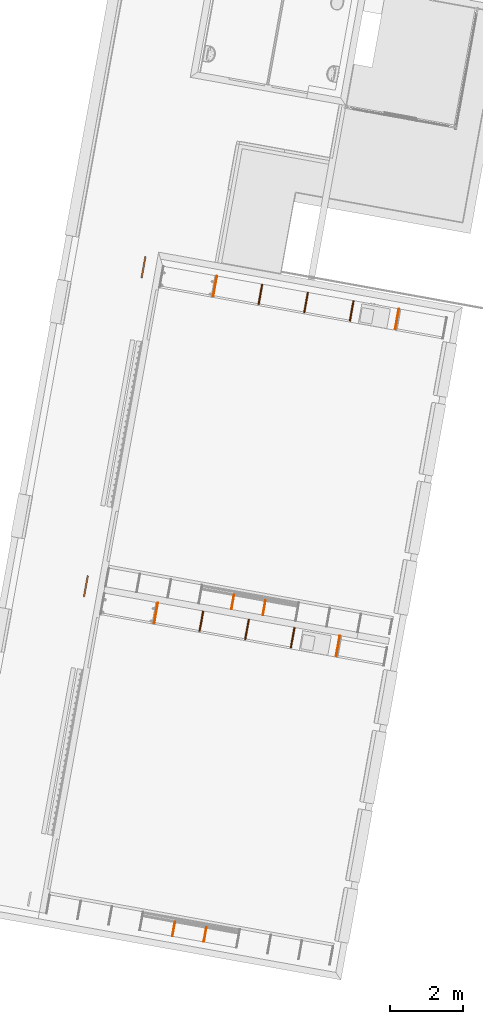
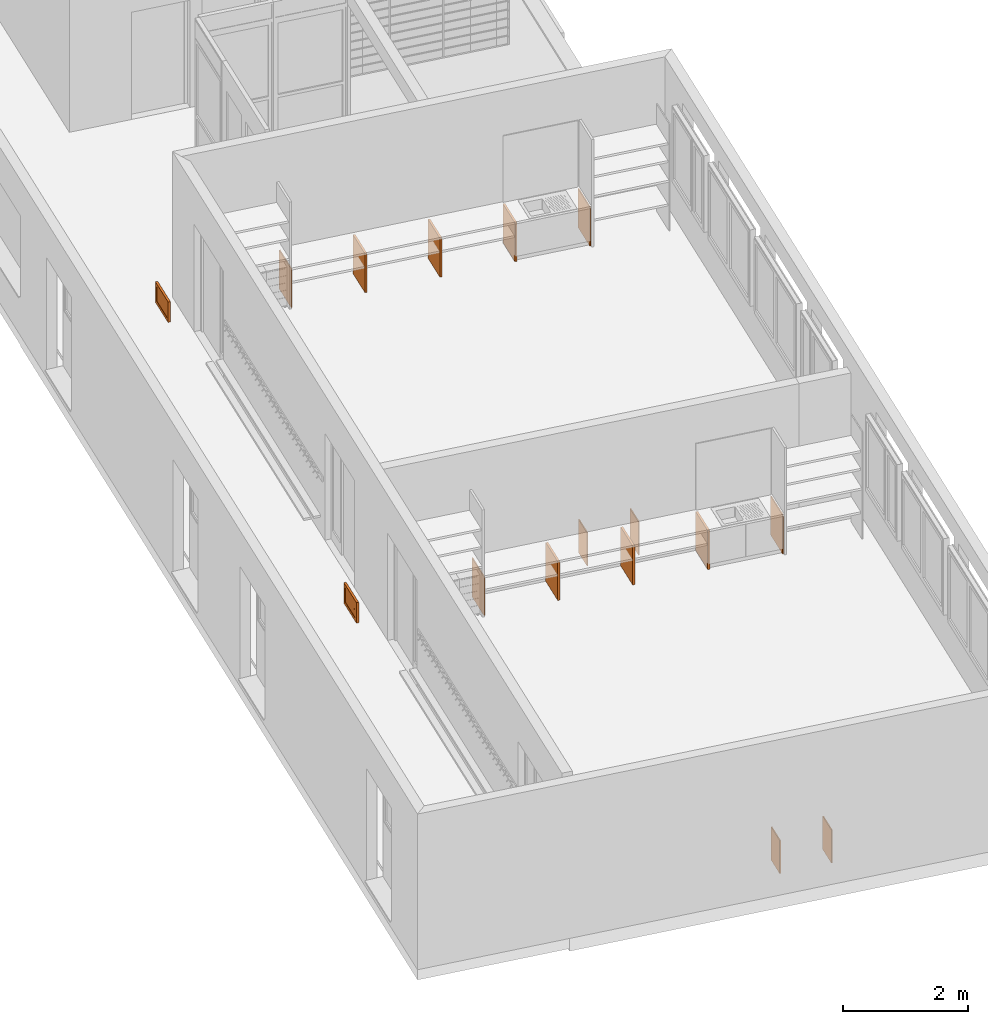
# One storey, part 27 of 52: 16 proxies.
"""IFC2X3 building model written with IfcOpenShell, lengths in metres."""

from ifc_helpers import new_model, entity, si_unit, converted_unit, derived_unit, money_unit, direction, frame, origin_with_axes, place, context, subcontext, project, spatial, polyline, outline, extrude, open_shell, faceted_brep, surface_model, source, transform, mapped, material, type_object, element, save


model = new_model("IFC2X3")

# Units and contexts
model_context = context("Model", 3, precision=1e-05, world=origin_with_axes(), true_north=direction((0.0, 1.0)))
body_context = subcontext(model_context, "Body", "Model", "MODEL_VIEW")
ifc_project = project(units=[si_unit("LENGTHUNIT", "METRE"), si_unit("AREAUNIT", "SQUARE_METRE"), si_unit("VOLUMEUNIT", "CUBIC_METRE"), converted_unit("PLANEANGLEUNIT", "DEGREE", entity("IfcPlaneAngleMeasure", 0.0174532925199), si_unit("PLANEANGLEUNIT", "RADIAN"), dimensions=[0, 0, 0, 0, 0, 0, 0]), money_unit("CHF"), converted_unit("TIMEUNIT", "Year", entity("IfcTimeMeasure", 31556926.0), si_unit("TIMEUNIT", "SECOND"), dimensions=[0, 0, 1, 0, 0, 0, 0]), si_unit("MASSUNIT", "GRAM", prefix="KILO"), si_unit("THERMODYNAMICTEMPERATUREUNIT", "DEGREE_CELSIUS"), si_unit("LUMINOUSINTENSITYUNIT", "LUMEN"), si_unit("ENERGYUNIT", "JOULE", prefix="MEGA"), derived_unit("THERMALCONDUCTANCEUNIT", [(si_unit("POWERUNIT", "WATT"), 1), (si_unit("LENGTHUNIT", "METRE"), -1), (si_unit("THERMODYNAMICTEMPERATUREUNIT", "KELVIN"), -1)]), derived_unit("SPECIFICHEATCAPACITYUNIT", [(si_unit("ENERGYUNIT", "JOULE"), 1), (si_unit("MASSUNIT", "GRAM", prefix="KILO"), -1), (si_unit("THERMODYNAMICTEMPERATUREUNIT", "KELVIN"), -1)]), derived_unit("MASSDENSITYUNIT", [(si_unit("MASSUNIT", "GRAM", prefix="KILO"), 1), (si_unit("VOLUMEUNIT", "CUBIC_METRE"), -1)])], contexts=[model_context])

# Site, building, storey
site_placement = place(None, frame((0.0, 0.0, 0.0), z_axis=(0.0, 0.0, 1.0), x_axis=(-0.177771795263, -0.984071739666, 0.0)))
site = spatial("IfcSite", under=ifc_project, at=site_placement, Name="Site", CompositionType="ELEMENT")
building_placement = place(site_placement, origin_with_axes())
building = spatial("IfcBuilding", under=site, at=building_placement, Name="Bâtiment", CompositionType="ELEMENT")
storey_placement = place(building_placement, frame((0.0, 0.0, 3.2), z_axis=(0.0, 0.0, 1.0), x_axis=(1.0, 0.0, 0.0)))
storey = spatial("IfcBuildingStorey", under=building, at=storey_placement, Name="R+1", CompositionType="ELEMENT", Elevation=3.2)

# Proxies
ifc_material_1 = material(Name="_panneau mélaminé")
building_element_proxy_type_1 = type_object("IfcBuildingElementProxyType", Name="_panneau mélaminé 38", PredefinedType="NOTDEFINED")
for number, where, z_axis, x_axis, name in (
    (1, (156.26984114, -153.660193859, 0.0), (0.0, 0.0, 1.0), (-1.0, 0.0, 0.0), "raidiseur-fd-classe double"),
    (2, (156.26984114, -152.382193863, 0.0), (0.0, 0.0, 1.0), (-1.0, 0.0, 0.0), "raidiseur-fd-classe double"),
):
    element("IfcBuildingElementProxy", number, at=place(storey_placement, frame(where, z_axis=z_axis, x_axis=x_axis)), inside=storey, type_object=building_element_proxy_type_1, material=ifc_material_1, Name=name, context=body_context, shape_type="SweptSolid", body=[
        extrude(outline(polyline([(0.0, -0.019), (0.570000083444, -0.019), (0.570000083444, 0.019), (0.0, 0.019), (0.0, -0.019)])), origin_with_axes(), (0.0, 0.0, 1.0), 0.76),
    ])
proxy_1_placement = place(storey_placement, frame((156.269841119, -151.104151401, 0.0), z_axis=(0.0, 0.0, 1.0), x_axis=(-1.0, 0.0, 0.0)))
element("IfcBuildingElementProxy", 3, at=proxy_1_placement, inside=storey, type_object=building_element_proxy_type_1, material=ifc_material_1, Name="raidiseur-fd-classe double", context=body_context, shape_type="SweptSolid", body=[
    extrude(outline(polyline([(0.0, -0.019), (0.570000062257, -0.019), (0.570000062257, 0.019), (0.0, 0.019), (0.0, -0.019)])), origin_with_axes(), (0.0, 0.0, 1.0), 0.76),
])
proxy_2_placement = place(storey_placement, frame((147.119841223, -153.660193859, 0.0), z_axis=(0.0, 0.0, 1.0), x_axis=(-1.0, 0.0, 0.0)))
element("IfcBuildingElementProxy", 4, at=proxy_2_placement, inside=storey, type_object=building_element_proxy_type_1, material=ifc_material_1, Name="raidiseur-fd-classe double", context=body_context, shape_type="SweptSolid", body=[
    extrude(outline(polyline([(0.0, -0.019), (0.57, -0.019), (0.57, 0.019), (0.0, 0.019), (0.0, -0.019)])), origin_with_axes(), (0.0, 0.0, 1.0), 0.76),
])
proxy_3_placement = place(storey_placement, frame((147.119841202, -151.104151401, 0.0), z_axis=(0.0, 0.0, 1.0), x_axis=(-1.0, 0.0, 0.0)))
element("IfcBuildingElementProxy", 5, at=proxy_3_placement, inside=storey, type_object=building_element_proxy_type_1, material=ifc_material_1, Name="raidiseur-fd-classe double", context=body_context, shape_type="SweptSolid", body=[
    extrude(outline(polyline([(0.0, -0.019), (0.569999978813, -0.019), (0.569999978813, 0.019), (0.0, 0.019), (0.0, -0.019)])), origin_with_axes(), (0.0, 0.0, 1.0), 0.76),
])
proxy_4_placement = place(storey_placement, frame((147.119841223, -152.382193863, 0.0), z_axis=(0.0, 0.0, 1.0), x_axis=(-1.0, 0.0, 0.0)))
element("IfcBuildingElementProxy", 6, at=proxy_4_placement, inside=storey, type_object=building_element_proxy_type_1, material=ifc_material_1, Name="raidiseur-fd-classe double", context=body_context, shape_type="SweptSolid", body=[
    extrude(outline(polyline([(0.0, -0.019), (0.57, -0.019), (0.57, 0.019), (0.0, 0.019), (0.0, -0.019)])), origin_with_axes(), (0.0, 0.0, 1.0), 0.76),
])
building_element_proxy_type_2 = type_object("IfcBuildingElementProxyType", Name="_panneau mélaminé 19", PredefinedType="NOTDEFINED")
proxy_5_placement = place(storey_placement, frame((156.26984114, -149.845151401, 0.0), z_axis=(0.0, 0.0, 1.0), x_axis=(-1.0, 0.0, 0.0)))
element("IfcBuildingElementProxy", 7, at=proxy_5_placement, inside=storey, type_object=building_element_proxy_type_2, material=ifc_material_1, Name="raidiseur-fd-classe simple", context=body_context, shape_type="SweptSolid", body=[
    extrude(outline(polyline([(0.0, -0.019), (0.570000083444, -0.019), (0.570000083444, 0.0), (0.0, 0.0), (0.0, -0.019)])), origin_with_axes(), (0.0, 0.0, 1.0), 0.76),
])
proxy_6_placement = place(storey_placement, frame((156.26984114, -154.919236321, 0.0), z_axis=(0.0, 0.0, 1.0), x_axis=(-1.0, 0.0, 0.0)))
element("IfcBuildingElementProxy", 8, at=proxy_6_placement, inside=storey, type_object=building_element_proxy_type_2, material=ifc_material_1, Name="raidiseur-fd-classe simple", context=body_context, shape_type="SweptSolid", body=[
    extrude(outline(polyline([(0.0, 0.0), (0.570000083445, 0.0), (0.570000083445, 0.019), (0.0, 0.019), (0.0, 0.0)])), origin_with_axes(), (0.0, 0.0, 1.0), 0.76),
])
proxy_7_placement = place(storey_placement, frame((147.119841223, -149.845151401, 0.0), z_axis=(0.0, 0.0, 1.0), x_axis=(-1.0, 0.0, 0.0)))
element("IfcBuildingElementProxy", 9, at=proxy_7_placement, inside=storey, type_object=building_element_proxy_type_2, material=ifc_material_1, Name="raidiseur-fd-classe simple", context=body_context, shape_type="SweptSolid", body=[
    extrude(outline(polyline([(0.0, -0.019), (0.57, -0.019), (0.57, 0.0), (0.0, 0.0), (0.0, -0.019)])), origin_with_axes(), (0.0, 0.0, 1.0), 0.76),
])
proxy_8_placement = place(storey_placement, frame((147.119841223, -154.919236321, 0.0), z_axis=(0.0, 0.0, 1.0), x_axis=(-1.0, 0.0, 0.0)))
element("IfcBuildingElementProxy", 10, at=proxy_8_placement, inside=storey, type_object=building_element_proxy_type_2, material=ifc_material_1, Name="raidiseur-fd-classe simple", context=body_context, shape_type="SweptSolid", body=[
    extrude(outline(polyline([(0.0, 0.0), (0.570000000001, 0.0), (0.570000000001, 0.019), (0.0, 0.019), (0.0, 0.0)])), origin_with_axes(), (0.0, 0.0, 1.0), 0.76),
])
proxy_9_placement = place(storey_placement, frame((155.109841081, -152.903051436, 0.0), z_axis=(0.0, 0.0, 1.0), x_axis=(1.0, 0.0, 0.0)))
element("IfcBuildingElementProxy", 11, at=proxy_9_placement, inside=storey, type_object=building_element_proxy_type_2, material=ifc_material_1, Name="raidiseur-sous-tableau", context=body_context, shape_type="SweptSolid", body=[
    extrude(outline(polyline([(0.0, -0.0095), (0.409999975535, -0.0095), (0.409999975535, 0.0095), (0.0, 0.0095), (0.0, -0.0095)])), origin_with_axes(), (0.0, 0.0, 1.0), 0.65),
])
proxy_10_placement = place(storey_placement, frame((155.109841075, -152.023051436, 0.0), z_axis=(0.0, 0.0, 1.0), x_axis=(1.0, 0.0, 0.0)))
element("IfcBuildingElementProxy", 12, at=proxy_10_placement, inside=storey, type_object=building_element_proxy_type_2, material=ifc_material_1, Name="raidiseur-sous-tableau", context=body_context, shape_type="SweptSolid", body=[
    extrude(outline(polyline([(0.0, -0.0095), (0.409999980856, -0.0095), (0.409999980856, 0.0095), (0.0, 0.0095), (0.0, -0.0095)])), origin_with_axes(), (0.0, 0.0, 1.0), 0.65),
])
proxy_11_placement = place(storey_placement, frame((164.259841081, -152.903051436, 0.0), z_axis=(0.0, 0.0, 1.0), x_axis=(1.0, 0.0, 0.0)))
element("IfcBuildingElementProxy", 13, at=proxy_11_placement, inside=storey, type_object=building_element_proxy_type_2, material=ifc_material_1, Name="raidiseur-sous-tableau", context=body_context, shape_type="SweptSolid", body=[
    extrude(outline(polyline([(0.0, -0.0095), (0.409999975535, -0.0095), (0.409999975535, 0.0095), (0.0, 0.0095), (0.0, -0.0095)])), origin_with_axes(), (0.0, 0.0, 1.0), 0.65),
])
proxy_12_placement = place(storey_placement, frame((164.259841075, -152.023051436, 0.0), z_axis=(0.0, 0.0, 1.0), x_axis=(1.0, 0.0, 0.0)))
element("IfcBuildingElementProxy", 14, at=proxy_12_placement, inside=storey, type_object=building_element_proxy_type_2, material=ifc_material_1, Name="raidiseur-sous-tableau", context=body_context, shape_type="SweptSolid", body=[
    extrude(outline(polyline([(0.0, -0.0095), (0.409999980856, -0.0095), (0.409999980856, 0.0095), (0.0, 0.0095), (0.0, -0.0095)])), origin_with_axes(), (0.0, 0.0, 1.0), 0.65),
])
ifc_material_2 = material(Name="Matériau de construction IFC")
building_element_proxy_type_3 = type_object("IfcBuildingElementProxyType", Name="Trappe-visite_JM", PredefinedType="NOTDEFINED")
shared_shape = source(origin_with_axes(), body_context, "Body", "SurfaceModel", [
    surface_model("IfcShellBasedSurfaceModel", [(0.6, -0.035, 0.0), (0.0, -0.035, 0.0), (0.0, -0.035, 0.4), (0.6, -0.035, 0.4), (0.54, -0.035, 0.06), (0.54, -0.035, 0.34), (0.06, -0.035, 0.34), (0.06, -0.035, 0.06)], [open_shell([[[0, 1, 2, 3], [4, 5, 6, 7]]])]),
    faceted_brep([(0.6, 0.005, 0.0), (0.6, -0.035, 0.0), (0.0, -0.035, 0.0), (0.0, 0.005, 0.0), (0.6, 0.005, 0.4), (0.6, -0.035, 0.4), (0.0, -0.035, 0.4), (0.54, -0.035, 0.06), (0.06, -0.035, 0.06), (0.06, -0.035, 0.34), (0.54, -0.035, 0.34), (0.0, 0.005, 0.4), (0.54, 0.005, 0.06), (0.54, 0.005, 0.34), (0.06, 0.005, 0.34), (0.06, 0.005, 0.06)], [[[0, 1, 2, 3]], [[4, 5, 1, 0]], [[1, 5, 6, 2], [7, 8, 9, 10]], [[3, 2, 6, 11]], [[0, 3, 11, 4], [12, 13, 14, 15]], [[11, 6, 5, 4]], [[15, 8, 7, 12]], [[14, 9, 8, 15]], [[13, 10, 9, 14]], [[12, 7, 10, 13]]]),
    faceted_brep([(0.06, 0.0, 0.06), (0.06, -0.02, 0.06), (0.06, -0.02, 0.34), (0.06, 0.0, 0.34), (0.54, 0.0, 0.06), (0.54, -0.02, 0.06), (0.54, -0.02, 0.34), (0.1, -0.02, 0.19), (0.1, -0.02, 0.21), (0.12, -0.02, 0.21), (0.12, -0.02, 0.19), (0.54, 0.0, 0.34), (0.1, 0.0, 0.19), (0.12, 0.0, 0.19), (0.12, 0.0, 0.21), (0.1, 0.0, 0.21)], [[[0, 1, 2, 3]], [[4, 5, 1, 0]], [[1, 5, 6, 2], [7, 8, 9, 10]], [[3, 2, 6, 11]], [[0, 3, 11, 4], [12, 13, 14, 15]], [[11, 6, 5, 4]], [[15, 8, 7, 12]], [[14, 9, 8, 15]], [[13, 10, 9, 14]], [[12, 7, 10, 13]]]),
])
for number, where, z_axis, x_axis, name in (
    (15, (146.969841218, -156.977152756, 0.1), (0.0, 0.0, 1.0), (-1.0, -3.08490064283e-07, 0.0), "trappe clapet-CF"),
    (16, (155.909841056, -156.977152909, 0.1), (0.0, 0.0, 1.0), (-1.0, 0.0, 0.0), "trappe clapet-CF"),
):
    element("IfcBuildingElementProxy", number, at=place(storey_placement, frame(where, z_axis=z_axis, x_axis=x_axis)), inside=storey, type_object=building_element_proxy_type_3, material=ifc_material_2, Name=name, context=body_context, shape_type="MappedRepresentation", body=[
        mapped(shared_shape, transform((0.0, 0.0, 0.0))),
    ])

save(model, "model.ifc")
